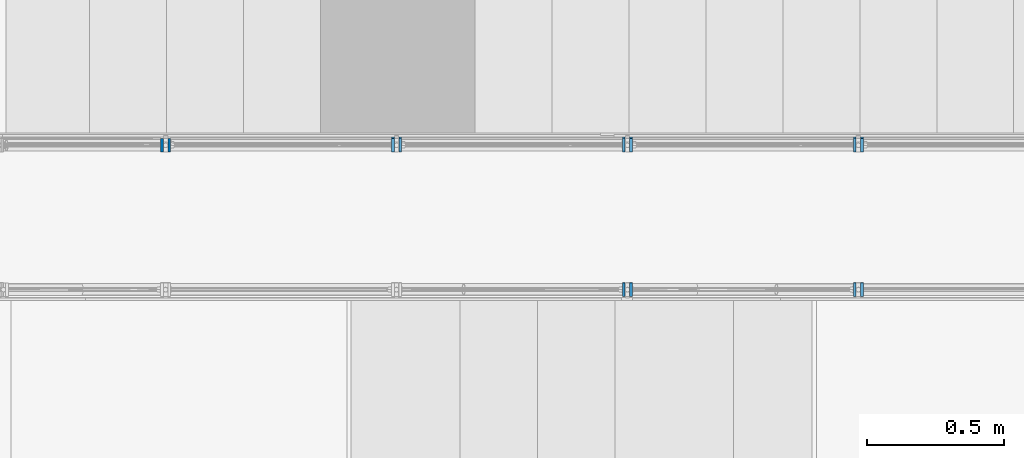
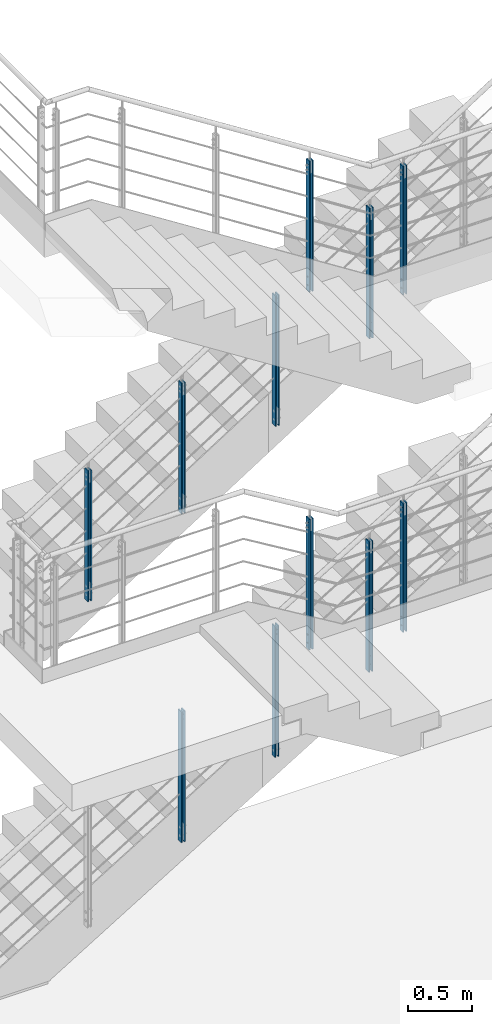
# One storey, part 3 of 98: 22 columns, 44 openings.
"""IFC2X3 building model written with IfcOpenShell, lengths in millimetres."""

from ifc_helpers import new_model, entity, si_unit, converted_unit, frame, frame_2d, origin, origin_with_axes, origin_2d, place, context, project, spatial, rectangle, circle, extrude, material, element, save


model = new_model("IFC2X3")

# Units and contexts
model_context = context("Model", 3, precision=1e-09, world=origin_with_axes())
ifc_project = project(units=[si_unit("LENGTHUNIT", "METRE", prefix="MILLI"), si_unit("AREAUNIT", "SQUARE_METRE"), si_unit("VOLUMEUNIT", "CUBIC_METRE"), converted_unit("PLANEANGLEUNIT", "DEGREE", entity("IfcPlaneAngleMeasure", 0.01745329), si_unit("PLANEANGLEUNIT", "RADIAN"), dimensions=[0, 0, 0, 0, 0, 0, 0])], contexts=[model_context])

# Site, building, storey
site_placement = place(None, origin_with_axes())
site = spatial("IfcSite", under=ifc_project, at=site_placement, Name="Maybachstra?e 2, 71563 Affalterbach", CompositionType="ELEMENT")
building_placement = place(site_placement, origin_with_axes())
building = spatial("IfcBuilding", under=site, at=building_placement, Name="Struktur 1", CompositionType="ELEMENT")
storey_placement = place(building_placement, origin_with_axes())
storey = spatial("IfcBuildingStorey", under=building, at=storey_placement, Name="Default Storey", CompositionType="ELEMENT", Elevation=0.0)

# Column
ifc_material = material(Name="S235JR")
column_1_placement = place(None, frame((10548.279157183, -570.0, 7070.1), z_axis=(0.0, 0.0, 1.0), x_axis=(-1.0, 0.0, 0.0)))
element("IfcColumn", 1, at=column_1_placement, inside=storey, material=ifc_material, Name="Gel?nder", ObjectType="Gel?nder", context=model_context, shape_type="SweptSolid", body=[
    extrude(rectangle(XDim=10.0, YDim=50.0, at=origin_2d()), origin(), (0.0, 0.0, -1.0), 1217.6),
])

# Column, openings
column_2_placement = place(None, frame((10521.779157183, -569.0, 3877.6), z_axis=(0.0, 0.0, 1.0), x_axis=(-1.0, 0.0, 0.0)))
column_2 = element("IfcColumn", 2, at=column_2_placement, inside=storey, material=ifc_material, Name="-", ObjectType="-", context=model_context, shape_type="SweptSolid", body=[
    extrude(rectangle(XDim=10.0, YDim=50.0, at=origin_2d()), origin(), (0.0, 0.0, -1.0), 1217.6),
])
opening_1_placement = place(column_2_placement, frame((5.5, 0.0, -1122.6), z_axis=(-1.0, 0.0, 0.0), x_axis=(0.0, -1.0, 0.0)))
element("IfcOpeningElement", 3, at=opening_1_placement, cuts=column_2, ObjectType="Opening", context=model_context, shape_type="SweptSolid", body=[
    extrude(circle(Radius=7.001, at=frame_2d((0.0, 40.0), x_axis=(1.0, 0.0))), origin(), (0.0, 0.0, 1.0), 11.0),
])
opening_2_placement = place(column_2_placement, frame((5.5, 0.0, -1122.6), z_axis=(-1.0, 0.0, 0.0), x_axis=(0.0, -1.0, 0.0)))
element("IfcOpeningElement", 4, at=opening_2_placement, cuts=column_2, ObjectType="Opening", context=model_context, shape_type="SweptSolid", body=[
    extrude(circle(Radius=7.001, at=frame_2d((0.0, -40.0), x_axis=(1.0, 0.0))), origin(), (0.0, 0.0, 1.0), 11.0),
])
opening_3_placement = place(column_2_placement, frame((5.5, 0.0, -67.0), z_axis=(-1.0, 0.0, 0.0), x_axis=(0.0, -1.0, 0.0)))
element("IfcOpeningElement", 5, at=opening_3_placement, cuts=column_2, ObjectType="Opening", context=model_context, shape_type="SweptSolid", body=[
    extrude(circle(Radius=7.001, at=frame_2d((0.0, 22.0), x_axis=(1.0, 0.0))), origin(), (0.0, 0.0, 1.0), 11.0),
])
opening_4_placement = place(column_2_placement, frame((5.5, 0.0, -67.0), z_axis=(-1.0, 0.0, 0.0), x_axis=(0.0, -1.0, 0.0)))
element("IfcOpeningElement", 6, at=opening_4_placement, cuts=column_2, ObjectType="Opening", context=model_context, shape_type="SweptSolid", body=[
    extrude(circle(Radius=7.001, at=frame_2d((0.0, -22.0), x_axis=(1.0, 0.0))), origin(), (0.0, 0.0, 1.0), 11.0),
])

# Column
column_3_placement = place(None, frame((10548.279157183, -569.0, 3877.6), z_axis=(0.0, 0.0, 1.0), x_axis=(-1.0, 0.0, 0.0)))
element("IfcColumn", 7, at=column_3_placement, inside=storey, material=ifc_material, Name="Gel?nder", ObjectType="Gel?nder", context=model_context, shape_type="SweptSolid", body=[
    extrude(rectangle(XDim=10.0, YDim=50.0, at=origin_2d()), origin(), (0.0, 0.0, -1.0), 1217.6),
])

# Column, openings
column_4_placement = place(None, frame((10548.279157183, -45.0, 6356.559373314), z_axis=(0.0, 0.0, -1.0), x_axis=(1.0, 0.0, 0.0)))
column_4 = element("IfcColumn", 8, at=column_4_placement, inside=storey, material=ifc_material, Name="-", ObjectType="-", context=model_context, shape_type="SweptSolid", body=[
    extrude(rectangle(XDim=10.0, YDim=50.0, at=origin_2d()), origin(), (0.0, 0.0, 1.0), 1237.6),
])
opening_5_placement = place(column_4_placement, frame((5.5, 7.001, 1102.6), z_axis=(1.0, 0.0, 0.0), x_axis=(0.0, 1.0, 0.0)))
element("IfcOpeningElement", 9, at=opening_5_placement, cuts=column_4, ObjectType="Opening", context=model_context, shape_type="SweptSolid", body=[
    extrude(circle(Radius=7.001, at=frame_2d((-7.001, 0.0), x_axis=(1.0, 0.0))), origin(), (0.0, 0.0, -1.0), 11.0),
])
opening_6_placement = place(column_4_placement, frame((5.5, 7.001, 1182.6), z_axis=(1.0, 0.0, 0.0), x_axis=(0.0, 1.0, 0.0)))
element("IfcOpeningElement", 10, at=opening_6_placement, cuts=column_4, ObjectType="Opening", context=model_context, shape_type="SweptSolid", body=[
    extrude(circle(Radius=7.001, at=frame_2d((-7.001, 0.0), x_axis=(1.0, 0.0))), origin(), (0.0, 0.0, -1.0), 11.0),
])
opening_7_placement = place(column_4_placement, frame((5.5, 7.001, 45.0), z_axis=(1.0, 0.0, 0.0), x_axis=(0.0, 1.0, 0.0)))
element("IfcOpeningElement", 11, at=opening_7_placement, cuts=column_4, ObjectType="Opening", context=model_context, shape_type="SweptSolid", body=[
    extrude(circle(Radius=7.001, at=frame_2d((-7.001, 0.0), x_axis=(1.0, 0.0))), origin(), (0.0, 0.0, -1.0), 11.0),
])
opening_8_placement = place(column_4_placement, frame((5.5, 7.001, 89.0), z_axis=(1.0, 0.0, 0.0), x_axis=(0.0, 1.0, 0.0)))
element("IfcOpeningElement", 12, at=opening_8_placement, cuts=column_4, ObjectType="Opening", context=model_context, shape_type="SweptSolid", body=[
    extrude(circle(Radius=7.001, at=frame_2d((-7.001, 0.0), x_axis=(1.0, 0.0))), origin(), (0.0, 0.0, -1.0), 11.0),
])

# Column
column_5_placement = place(None, frame((10521.779157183, -45.0, 6356.559373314), z_axis=(0.0, 0.0, -1.0), x_axis=(1.0, 0.0, 0.0)))
element("IfcColumn", 13, at=column_5_placement, inside=storey, material=ifc_material, Name="Gel?nder", ObjectType="Gel?nder", context=model_context, shape_type="SweptSolid", body=[
    extrude(rectangle(XDim=10.0, YDim=50.0, at=origin_2d()), origin(), (0.0, 0.0, 1.0), 1237.6),
])

# Column, openings
column_6_placement = place(None, frame((9681.779157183, -569.0, 4024.338077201), z_axis=(0.0, 0.0, 1.0), x_axis=(-1.0, 0.0, 0.0)))
column_6 = element("IfcColumn", 14, at=column_6_placement, inside=storey, material=ifc_material, Name="-", ObjectType="-", context=model_context, shape_type="SweptSolid", body=[
    extrude(rectangle(XDim=10.0, YDim=50.0, at=origin_2d()), origin(), (0.0, 0.0, -1.0), 1237.6),
])
opening_9_placement = place(column_6_placement, frame((5.5, 0.0, -1142.6), z_axis=(-1.0, 0.0, 0.0), x_axis=(0.0, -1.0, 0.0)))
element("IfcOpeningElement", 15, at=opening_9_placement, cuts=column_6, ObjectType="Opening", context=model_context, shape_type="SweptSolid", body=[
    extrude(circle(Radius=7.001, at=frame_2d((0.0, 40.0), x_axis=(1.0, 0.0))), origin(), (0.0, 0.0, 1.0), 11.0),
])
opening_10_placement = place(column_6_placement, frame((5.5, 0.0, -1142.6), z_axis=(-1.0, 0.0, 0.0), x_axis=(0.0, -1.0, 0.0)))
element("IfcOpeningElement", 16, at=opening_10_placement, cuts=column_6, ObjectType="Opening", context=model_context, shape_type="SweptSolid", body=[
    extrude(circle(Radius=7.001, at=frame_2d((0.0, -40.0), x_axis=(1.0, 0.0))), origin(), (0.0, 0.0, 1.0), 11.0),
])
opening_11_placement = place(column_6_placement, frame((5.5, 0.0, -67.0), z_axis=(-1.0, 0.0, 0.0), x_axis=(0.0, -1.0, 0.0)))
element("IfcOpeningElement", 17, at=opening_11_placement, cuts=column_6, ObjectType="Opening", context=model_context, shape_type="SweptSolid", body=[
    extrude(circle(Radius=7.001, at=frame_2d((0.0, 22.0), x_axis=(1.0, 0.0))), origin(), (0.0, 0.0, 1.0), 11.0),
])
opening_12_placement = place(column_6_placement, frame((5.5, 0.0, -67.0), z_axis=(-1.0, 0.0, 0.0), x_axis=(0.0, -1.0, 0.0)))
element("IfcOpeningElement", 18, at=opening_12_placement, cuts=column_6, ObjectType="Opening", context=model_context, shape_type="SweptSolid", body=[
    extrude(circle(Radius=7.001, at=frame_2d((0.0, -22.0), x_axis=(1.0, 0.0))), origin(), (0.0, 0.0, 1.0), 11.0),
])

# Column
column_7_placement = place(None, frame((9708.279157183, -569.0, 4024.338077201), z_axis=(0.0, 0.0, 1.0), x_axis=(-1.0, 0.0, 0.0)))
element("IfcColumn", 19, at=column_7_placement, inside=storey, material=ifc_material, Name="Gel?nder", ObjectType="Gel?nder", context=model_context, shape_type="SweptSolid", body=[
    extrude(rectangle(XDim=10.0, YDim=50.0, at=origin_2d()), origin(), (0.0, 0.0, -1.0), 1237.6),
])

# Column, openings
column_8_placement = place(None, frame((9681.779157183, -570.0, 7411.434521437), z_axis=(0.0, 0.0, 1.0), x_axis=(-1.0, 0.0, 0.0)))
column_8 = element("IfcColumn", 20, at=column_8_placement, inside=storey, material=ifc_material, Name="-", ObjectType="-", context=model_context, shape_type="SweptSolid", body=[
    extrude(rectangle(XDim=10.0, YDim=50.0, at=origin_2d()), origin(), (0.0, 0.0, -1.0), 1237.6),
])
opening_13_placement = place(column_8_placement, frame((5.5, 0.0, -1142.6), z_axis=(-1.0, 0.0, 0.0), x_axis=(0.0, -1.0, 0.0)))
element("IfcOpeningElement", 21, at=opening_13_placement, cuts=column_8, ObjectType="Opening", context=model_context, shape_type="SweptSolid", body=[
    extrude(circle(Radius=7.001, at=frame_2d((0.0, 40.0), x_axis=(1.0, 0.0))), origin(), (0.0, 0.0, 1.0), 11.0),
])
opening_14_placement = place(column_8_placement, frame((5.5, 0.0, -1142.6), z_axis=(-1.0, 0.0, 0.0), x_axis=(0.0, -1.0, 0.0)))
element("IfcOpeningElement", 22, at=opening_14_placement, cuts=column_8, ObjectType="Opening", context=model_context, shape_type="SweptSolid", body=[
    extrude(circle(Radius=7.001, at=frame_2d((0.0, -40.0), x_axis=(1.0, 0.0))), origin(), (0.0, 0.0, 1.0), 11.0),
])
opening_15_placement = place(column_8_placement, frame((5.5, 0.0, -67.0), z_axis=(-1.0, 0.0, 0.0), x_axis=(0.0, -1.0, 0.0)))
element("IfcOpeningElement", 23, at=opening_15_placement, cuts=column_8, ObjectType="Opening", context=model_context, shape_type="SweptSolid", body=[
    extrude(circle(Radius=7.001, at=frame_2d((0.0, 22.0), x_axis=(1.0, 0.0))), origin(), (0.0, 0.0, 1.0), 11.0),
])
opening_16_placement = place(column_8_placement, frame((5.5, 0.0, -67.0), z_axis=(-1.0, 0.0, 0.0), x_axis=(0.0, -1.0, 0.0)))
element("IfcOpeningElement", 24, at=opening_16_placement, cuts=column_8, ObjectType="Opening", context=model_context, shape_type="SweptSolid", body=[
    extrude(circle(Radius=7.001, at=frame_2d((0.0, -22.0), x_axis=(1.0, 0.0))), origin(), (0.0, 0.0, 1.0), 11.0),
])

# Column
column_9_placement = place(None, frame((9708.279157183, -570.0, 7411.434521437), z_axis=(0.0, 0.0, 1.0), x_axis=(-1.0, 0.0, 0.0)))
element("IfcColumn", 25, at=column_9_placement, inside=storey, material=ifc_material, Name="Gel?nder", ObjectType="Gel?nder", context=model_context, shape_type="SweptSolid", body=[
    extrude(rectangle(XDim=10.0, YDim=50.0, at=origin_2d()), origin(), (0.0, 0.0, -1.0), 1237.6),
])

# Column, openings
column_10_placement = place(None, frame((8868.279157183, -40.0, 2175.307336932), z_axis=(0.0, 0.0, -1.0), x_axis=(1.0, 0.0, 0.0)))
column_10 = element("IfcColumn", 26, at=column_10_placement, inside=storey, material=ifc_material, Name="-", ObjectType="-", context=model_context, shape_type="SweptSolid", body=[
    extrude(rectangle(XDim=10.0, YDim=50.0, at=origin_2d()), origin(), (0.0, 0.0, 1.0), 1237.6),
])
opening_17_placement = place(column_10_placement, frame((5.5, 7.001, 1102.6), z_axis=(1.0, 0.0, 0.0), x_axis=(0.0, 1.0, 0.0)))
element("IfcOpeningElement", 27, at=opening_17_placement, cuts=column_10, ObjectType="Opening", context=model_context, shape_type="SweptSolid", body=[
    extrude(circle(Radius=7.001, at=frame_2d((-7.001, 0.0), x_axis=(1.0, 0.0))), origin(), (0.0, 0.0, -1.0), 11.0),
])
opening_18_placement = place(column_10_placement, frame((5.5, 7.001, 1182.6), z_axis=(1.0, 0.0, 0.0), x_axis=(0.0, 1.0, 0.0)))
element("IfcOpeningElement", 28, at=opening_18_placement, cuts=column_10, ObjectType="Opening", context=model_context, shape_type="SweptSolid", body=[
    extrude(circle(Radius=7.001, at=frame_2d((-7.001, 0.0), x_axis=(1.0, 0.0))), origin(), (0.0, 0.0, -1.0), 11.0),
])
opening_19_placement = place(column_10_placement, frame((5.5, 7.001, 45.0), z_axis=(1.0, 0.0, 0.0), x_axis=(0.0, 1.0, 0.0)))
element("IfcOpeningElement", 29, at=opening_19_placement, cuts=column_10, ObjectType="Opening", context=model_context, shape_type="SweptSolid", body=[
    extrude(circle(Radius=7.001, at=frame_2d((-7.001, 0.0), x_axis=(1.0, 0.0))), origin(), (0.0, 0.0, -1.0), 11.0),
])
opening_20_placement = place(column_10_placement, frame((5.5, 7.001, 89.0), z_axis=(1.0, 0.0, 0.0), x_axis=(0.0, 1.0, 0.0)))
element("IfcOpeningElement", 30, at=opening_20_placement, cuts=column_10, ObjectType="Opening", context=model_context, shape_type="SweptSolid", body=[
    extrude(circle(Radius=7.001, at=frame_2d((-7.001, 0.0), x_axis=(1.0, 0.0))), origin(), (0.0, 0.0, -1.0), 11.0),
])

# Column
column_11_placement = place(None, frame((8841.779157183, -40.0, 2175.307336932), z_axis=(0.0, 0.0, -1.0), x_axis=(1.0, 0.0, 0.0)))
element("IfcColumn", 31, at=column_11_placement, inside=storey, material=ifc_material, Name="Gel?nder", ObjectType="Gel?nder", context=model_context, shape_type="SweptSolid", body=[
    extrude(rectangle(XDim=10.0, YDim=50.0, at=origin_2d()), origin(), (0.0, 0.0, 1.0), 1237.6),
])

# Column, openings
column_12_placement = place(None, frame((9708.279157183, -40.0, 2686.432336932), z_axis=(0.0, 0.0, -1.0), x_axis=(1.0, 0.0, 0.0)))
column_12 = element("IfcColumn", 32, at=column_12_placement, inside=storey, material=ifc_material, Name="-", ObjectType="-", context=model_context, shape_type="SweptSolid", body=[
    extrude(rectangle(XDim=10.0, YDim=50.0, at=origin_2d()), origin(), (0.0, 0.0, 1.0), 1237.6),
])
opening_21_placement = place(column_12_placement, frame((5.5, 7.001, 1102.6), z_axis=(1.0, 0.0, 0.0), x_axis=(0.0, 1.0, 0.0)))
element("IfcOpeningElement", 33, at=opening_21_placement, cuts=column_12, ObjectType="Opening", context=model_context, shape_type="SweptSolid", body=[
    extrude(circle(Radius=7.001, at=frame_2d((-7.001, 0.0), x_axis=(1.0, 0.0))), origin(), (0.0, 0.0, -1.0), 11.0),
])
opening_22_placement = place(column_12_placement, frame((5.5, 7.001, 1182.6), z_axis=(1.0, 0.0, 0.0), x_axis=(0.0, 1.0, 0.0)))
element("IfcOpeningElement", 34, at=opening_22_placement, cuts=column_12, ObjectType="Opening", context=model_context, shape_type="SweptSolid", body=[
    extrude(circle(Radius=7.001, at=frame_2d((-7.001, 0.0), x_axis=(1.0, 0.0))), origin(), (0.0, 0.0, -1.0), 11.0),
])
opening_23_placement = place(column_12_placement, frame((5.5, 7.001, 45.0), z_axis=(1.0, 0.0, 0.0), x_axis=(0.0, 1.0, 0.0)))
element("IfcOpeningElement", 35, at=opening_23_placement, cuts=column_12, ObjectType="Opening", context=model_context, shape_type="SweptSolid", body=[
    extrude(circle(Radius=7.001, at=frame_2d((-7.001, 0.0), x_axis=(1.0, 0.0))), origin(), (0.0, 0.0, -1.0), 11.0),
])
opening_24_placement = place(column_12_placement, frame((5.5, 7.001, 89.0), z_axis=(1.0, 0.0, 0.0), x_axis=(0.0, 1.0, 0.0)))
element("IfcOpeningElement", 36, at=opening_24_placement, cuts=column_12, ObjectType="Opening", context=model_context, shape_type="SweptSolid", body=[
    extrude(circle(Radius=7.001, at=frame_2d((-7.001, 0.0), x_axis=(1.0, 0.0))), origin(), (0.0, 0.0, -1.0), 11.0),
])

# Column
column_13_placement = place(None, frame((9681.779157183, -40.0, 2686.432336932), z_axis=(0.0, 0.0, -1.0), x_axis=(1.0, 0.0, 0.0)))
element("IfcColumn", 37, at=column_13_placement, inside=storey, material=ifc_material, Name="Gel?nder", ObjectType="Gel?nder", context=model_context, shape_type="SweptSolid", body=[
    extrude(rectangle(XDim=10.0, YDim=50.0, at=origin_2d()), origin(), (0.0, 0.0, 1.0), 1237.6),
])

# Column, openings
column_14_placement = place(None, frame((10548.279157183, -40.0, 3197.557336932), z_axis=(0.0, 0.0, -1.0), x_axis=(1.0, 0.0, 0.0)))
column_14 = element("IfcColumn", 38, at=column_14_placement, inside=storey, material=ifc_material, Name="-", ObjectType="-", context=model_context, shape_type="SweptSolid", body=[
    extrude(rectangle(XDim=10.0, YDim=50.0, at=origin_2d()), origin(), (0.0, 0.0, 1.0), 1237.6),
])
opening_25_placement = place(column_14_placement, frame((5.5, 7.001, 1102.6), z_axis=(1.0, 0.0, 0.0), x_axis=(0.0, 1.0, 0.0)))
element("IfcOpeningElement", 39, at=opening_25_placement, cuts=column_14, ObjectType="Opening", context=model_context, shape_type="SweptSolid", body=[
    extrude(circle(Radius=7.001, at=frame_2d((-7.001, 0.0), x_axis=(1.0, 0.0))), origin(), (0.0, 0.0, -1.0), 11.0),
])
opening_26_placement = place(column_14_placement, frame((5.5, 7.001, 1182.6), z_axis=(1.0, 0.0, 0.0), x_axis=(0.0, 1.0, 0.0)))
element("IfcOpeningElement", 40, at=opening_26_placement, cuts=column_14, ObjectType="Opening", context=model_context, shape_type="SweptSolid", body=[
    extrude(circle(Radius=7.001, at=frame_2d((-7.001, 0.0), x_axis=(1.0, 0.0))), origin(), (0.0, 0.0, -1.0), 11.0),
])
opening_27_placement = place(column_14_placement, frame((5.5, 7.001, 45.0), z_axis=(1.0, 0.0, 0.0), x_axis=(0.0, 1.0, 0.0)))
element("IfcOpeningElement", 41, at=opening_27_placement, cuts=column_14, ObjectType="Opening", context=model_context, shape_type="SweptSolid", body=[
    extrude(circle(Radius=7.001, at=frame_2d((-7.001, 0.0), x_axis=(1.0, 0.0))), origin(), (0.0, 0.0, -1.0), 11.0),
])
opening_28_placement = place(column_14_placement, frame((5.5, 7.001, 89.0), z_axis=(1.0, 0.0, 0.0), x_axis=(0.0, 1.0, 0.0)))
element("IfcOpeningElement", 42, at=opening_28_placement, cuts=column_14, ObjectType="Opening", context=model_context, shape_type="SweptSolid", body=[
    extrude(circle(Radius=7.001, at=frame_2d((-7.001, 0.0), x_axis=(1.0, 0.0))), origin(), (0.0, 0.0, -1.0), 11.0),
])

# Column
column_15_placement = place(None, frame((10521.779157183, -40.0, 3197.557336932), z_axis=(0.0, 0.0, -1.0), x_axis=(1.0, 0.0, 0.0)))
element("IfcColumn", 43, at=column_15_placement, inside=storey, material=ifc_material, Name="Gel?nder", ObjectType="Gel?nder", context=model_context, shape_type="SweptSolid", body=[
    extrude(rectangle(XDim=10.0, YDim=50.0, at=origin_2d()), origin(), (0.0, 0.0, 1.0), 1237.6),
])

# Column, openings
column_16_placement = place(None, frame((9708.279157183, -45.0, 5821.741539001), z_axis=(0.0, 0.0, -1.0), x_axis=(1.0, 0.0, 0.0)))
column_16 = element("IfcColumn", 44, at=column_16_placement, inside=storey, material=ifc_material, Name="-", ObjectType="-", context=model_context, shape_type="SweptSolid", body=[
    extrude(rectangle(XDim=10.0, YDim=50.0, at=origin_2d()), origin(), (0.0, 0.0, 1.0), 1237.6),
])
opening_29_placement = place(column_16_placement, frame((5.5, 7.001, 1102.6), z_axis=(1.0, 0.0, 0.0), x_axis=(0.0, 1.0, 0.0)))
element("IfcOpeningElement", 45, at=opening_29_placement, cuts=column_16, ObjectType="Opening", context=model_context, shape_type="SweptSolid", body=[
    extrude(circle(Radius=7.001, at=frame_2d((-7.001, 0.0), x_axis=(1.0, 0.0))), origin(), (0.0, 0.0, -1.0), 11.0),
])
opening_30_placement = place(column_16_placement, frame((5.5, 7.001, 1182.6), z_axis=(1.0, 0.0, 0.0), x_axis=(0.0, 1.0, 0.0)))
element("IfcOpeningElement", 46, at=opening_30_placement, cuts=column_16, ObjectType="Opening", context=model_context, shape_type="SweptSolid", body=[
    extrude(circle(Radius=7.001, at=frame_2d((-7.001, 0.0), x_axis=(1.0, 0.0))), origin(), (0.0, 0.0, -1.0), 11.0),
])
opening_31_placement = place(column_16_placement, frame((5.5, 7.001, 45.0), z_axis=(1.0, 0.0, 0.0), x_axis=(0.0, 1.0, 0.0)))
element("IfcOpeningElement", 47, at=opening_31_placement, cuts=column_16, ObjectType="Opening", context=model_context, shape_type="SweptSolid", body=[
    extrude(circle(Radius=7.001, at=frame_2d((-7.001, 0.0), x_axis=(1.0, 0.0))), origin(), (0.0, 0.0, -1.0), 11.0),
])
opening_32_placement = place(column_16_placement, frame((5.5, 7.001, 89.0), z_axis=(1.0, 0.0, 0.0), x_axis=(0.0, 1.0, 0.0)))
element("IfcOpeningElement", 48, at=opening_32_placement, cuts=column_16, ObjectType="Opening", context=model_context, shape_type="SweptSolid", body=[
    extrude(circle(Radius=7.001, at=frame_2d((-7.001, 0.0), x_axis=(1.0, 0.0))), origin(), (0.0, 0.0, -1.0), 11.0),
])

# Column
column_17_placement = place(None, frame((9681.779157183, -45.0, 5821.741539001), z_axis=(0.0, 0.0, -1.0), x_axis=(1.0, 0.0, 0.0)))
element("IfcColumn", 49, at=column_17_placement, inside=storey, material=ifc_material, Name="Gel?nder", ObjectType="Gel?nder", context=model_context, shape_type="SweptSolid", body=[
    extrude(rectangle(XDim=10.0, YDim=50.0, at=origin_2d()), origin(), (0.0, 0.0, 1.0), 1237.6),
])

# Column, openings
column_18_placement = place(None, frame((8868.279157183, -45.0, 5286.923704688), z_axis=(0.0, 0.0, -1.0), x_axis=(1.0, 0.0, 0.0)))
column_18 = element("IfcColumn", 50, at=column_18_placement, inside=storey, material=ifc_material, Name="-", ObjectType="-", context=model_context, shape_type="SweptSolid", body=[
    extrude(rectangle(XDim=10.0, YDim=50.0, at=origin_2d()), origin(), (0.0, 0.0, 1.0), 1237.6),
])
opening_33_placement = place(column_18_placement, frame((5.5, 7.001, 1102.6), z_axis=(1.0, 0.0, 0.0), x_axis=(0.0, 1.0, 0.0)))
element("IfcOpeningElement", 51, at=opening_33_placement, cuts=column_18, ObjectType="Opening", context=model_context, shape_type="SweptSolid", body=[
    extrude(circle(Radius=7.001, at=frame_2d((-7.001, 0.0), x_axis=(1.0, 0.0))), origin(), (0.0, 0.0, -1.0), 11.0),
])
opening_34_placement = place(column_18_placement, frame((5.5, 7.001, 1182.6), z_axis=(1.0, 0.0, 0.0), x_axis=(0.0, 1.0, 0.0)))
element("IfcOpeningElement", 52, at=opening_34_placement, cuts=column_18, ObjectType="Opening", context=model_context, shape_type="SweptSolid", body=[
    extrude(circle(Radius=7.001, at=frame_2d((-7.001, 0.0), x_axis=(1.0, 0.0))), origin(), (0.0, 0.0, -1.0), 11.0),
])
opening_35_placement = place(column_18_placement, frame((5.5, 7.001, 45.0), z_axis=(1.0, 0.0, 0.0), x_axis=(0.0, 1.0, 0.0)))
element("IfcOpeningElement", 53, at=opening_35_placement, cuts=column_18, ObjectType="Opening", context=model_context, shape_type="SweptSolid", body=[
    extrude(circle(Radius=7.001, at=frame_2d((-7.001, 0.0), x_axis=(1.0, 0.0))), origin(), (0.0, 0.0, -1.0), 11.0),
])
opening_36_placement = place(column_18_placement, frame((5.5, 7.001, 89.0), z_axis=(1.0, 0.0, 0.0), x_axis=(0.0, 1.0, 0.0)))
element("IfcOpeningElement", 54, at=opening_36_placement, cuts=column_18, ObjectType="Opening", context=model_context, shape_type="SweptSolid", body=[
    extrude(circle(Radius=7.001, at=frame_2d((-7.001, 0.0), x_axis=(1.0, 0.0))), origin(), (0.0, 0.0, -1.0), 11.0),
])

# Column
column_19_placement = place(None, frame((8841.779157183, -45.0, 5286.923704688), z_axis=(0.0, 0.0, -1.0), x_axis=(1.0, 0.0, 0.0)))
element("IfcColumn", 55, at=column_19_placement, inside=storey, material=ifc_material, Name="Gel?nder", ObjectType="Gel?nder", context=model_context, shape_type="SweptSolid", body=[
    extrude(rectangle(XDim=10.0, YDim=50.0, at=origin_2d()), origin(), (0.0, 0.0, 1.0), 1237.6),
])

# Column, openings
column_20_placement = place(None, frame((8028.279157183, -45.0, 4752.105870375), z_axis=(0.0, 0.0, -1.0), x_axis=(1.0, 0.0, 0.0)))
column_20 = element("IfcColumn", 56, at=column_20_placement, inside=storey, material=ifc_material, Name="-", ObjectType="-", context=model_context, shape_type="SweptSolid", body=[
    extrude(rectangle(XDim=10.0, YDim=50.0, at=origin_2d()), origin(), (0.0, 0.0, 1.0), 1237.6),
])
opening_37_placement = place(column_20_placement, frame((5.5, 7.001, 1102.6), z_axis=(1.0, 0.0, 0.0), x_axis=(0.0, 1.0, 0.0)))
element("IfcOpeningElement", 57, at=opening_37_placement, cuts=column_20, ObjectType="Opening", context=model_context, shape_type="SweptSolid", body=[
    extrude(circle(Radius=7.001, at=frame_2d((-7.001, 0.0), x_axis=(1.0, 0.0))), origin(), (0.0, 0.0, -1.0), 11.0),
])
opening_38_placement = place(column_20_placement, frame((5.5, 7.001, 1182.6), z_axis=(1.0, 0.0, 0.0), x_axis=(0.0, 1.0, 0.0)))
element("IfcOpeningElement", 58, at=opening_38_placement, cuts=column_20, ObjectType="Opening", context=model_context, shape_type="SweptSolid", body=[
    extrude(circle(Radius=7.001, at=frame_2d((-7.001, 0.0), x_axis=(1.0, 0.0))), origin(), (0.0, 0.0, -1.0), 11.0),
])
opening_39_placement = place(column_20_placement, frame((5.5, 7.001, 45.0), z_axis=(1.0, 0.0, 0.0), x_axis=(0.0, 1.0, 0.0)))
element("IfcOpeningElement", 59, at=opening_39_placement, cuts=column_20, ObjectType="Opening", context=model_context, shape_type="SweptSolid", body=[
    extrude(circle(Radius=7.001, at=frame_2d((-7.001, 0.0), x_axis=(1.0, 0.0))), origin(), (0.0, 0.0, -1.0), 11.0),
])
opening_40_placement = place(column_20_placement, frame((5.5, 7.001, 89.0), z_axis=(1.0, 0.0, 0.0), x_axis=(0.0, 1.0, 0.0)))
element("IfcOpeningElement", 60, at=opening_40_placement, cuts=column_20, ObjectType="Opening", context=model_context, shape_type="SweptSolid", body=[
    extrude(circle(Radius=7.001, at=frame_2d((-7.001, 0.0), x_axis=(1.0, 0.0))), origin(), (0.0, 0.0, -1.0), 11.0),
])

# Column
column_21_placement = place(None, frame((8001.779157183, -45.0, 4752.105870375), z_axis=(0.0, 0.0, -1.0), x_axis=(1.0, 0.0, 0.0)))
element("IfcColumn", 61, at=column_21_placement, inside=storey, material=ifc_material, Name="Gel?nder", ObjectType="Gel?nder", context=model_context, shape_type="SweptSolid", body=[
    extrude(rectangle(XDim=10.0, YDim=50.0, at=origin_2d()), origin(), (0.0, 0.0, 1.0), 1237.6),
])

# Column, openings
column_22_placement = place(None, frame((10521.779157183, -570.0, 7070.1), z_axis=(0.0, 0.0, 1.0), x_axis=(-1.0, 0.0, 0.0)))
column_22 = element("IfcColumn", 62, at=column_22_placement, inside=storey, material=ifc_material, Name="-", ObjectType="-", context=model_context, shape_type="SweptSolid", body=[
    extrude(rectangle(XDim=10.0, YDim=50.0, at=origin_2d()), origin(), (0.0, 0.0, -1.0), 1217.6),
])
opening_41_placement = place(column_22_placement, frame((5.5, 0.0, -1122.6), z_axis=(-1.0, 0.0, 0.0), x_axis=(0.0, -1.0, 0.0)))
element("IfcOpeningElement", 63, at=opening_41_placement, cuts=column_22, ObjectType="Opening", context=model_context, shape_type="SweptSolid", body=[
    extrude(circle(Radius=7.001, at=frame_2d((0.0, 40.0), x_axis=(1.0, 0.0))), origin(), (0.0, 0.0, 1.0), 11.0),
])
opening_42_placement = place(column_22_placement, frame((5.5, 0.0, -1122.6), z_axis=(-1.0, 0.0, 0.0), x_axis=(0.0, -1.0, 0.0)))
element("IfcOpeningElement", 64, at=opening_42_placement, cuts=column_22, ObjectType="Opening", context=model_context, shape_type="SweptSolid", body=[
    extrude(circle(Radius=7.001, at=frame_2d((0.0, -40.0), x_axis=(1.0, 0.0))), origin(), (0.0, 0.0, 1.0), 11.0),
])
opening_43_placement = place(column_22_placement, frame((5.5, 0.0, -67.0), z_axis=(-1.0, 0.0, 0.0), x_axis=(0.0, -1.0, 0.0)))
element("IfcOpeningElement", 65, at=opening_43_placement, cuts=column_22, ObjectType="Opening", context=model_context, shape_type="SweptSolid", body=[
    extrude(circle(Radius=7.001, at=frame_2d((0.0, 22.0), x_axis=(1.0, 0.0))), origin(), (0.0, 0.0, 1.0), 11.0),
])
opening_44_placement = place(column_22_placement, frame((5.5, 0.0, -67.0), z_axis=(-1.0, 0.0, 0.0), x_axis=(0.0, -1.0, 0.0)))
element("IfcOpeningElement", 66, at=opening_44_placement, cuts=column_22, ObjectType="Opening", context=model_context, shape_type="SweptSolid", body=[
    extrude(circle(Radius=7.001, at=frame_2d((0.0, -22.0), x_axis=(1.0, 0.0))), origin(), (0.0, 0.0, 1.0), 11.0),
])

save(model, "model.ifc")
